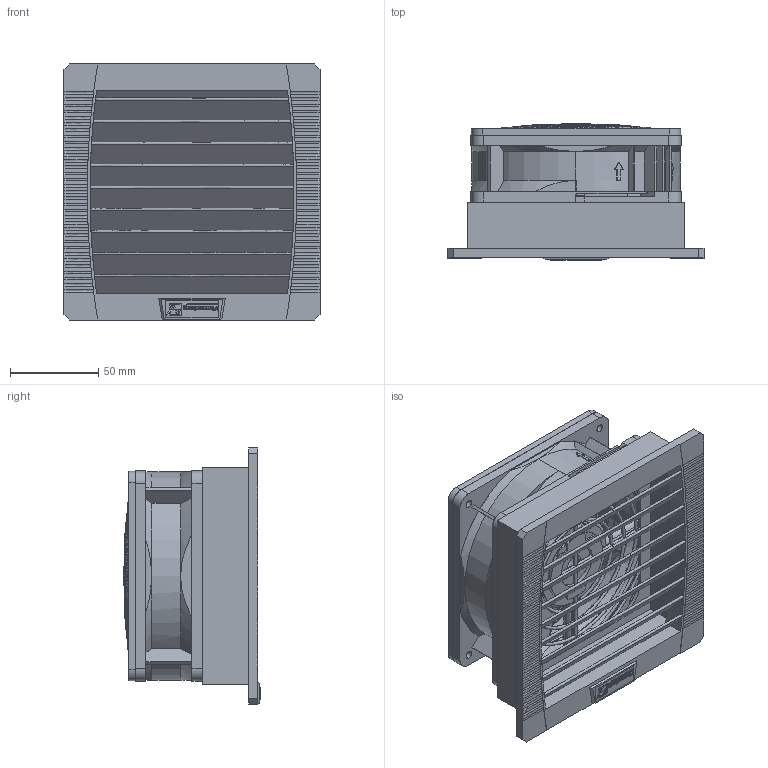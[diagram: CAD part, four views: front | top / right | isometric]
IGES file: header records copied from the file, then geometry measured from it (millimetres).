
Start section: SolidWorks IGES file using analytic representation for surfaces
Global section: file name: O:\Technik\Dokumentation\3D Volumenmodelle\PF 22000\PF 22000_AC.IGS; native system: SolidWorks 2007; preprocessor: SolidWorks 2007; author: AHoltz; date: 070529.173226; units: millimetre
Bounding box: 145 x 77.19 x 145 mm (x, y, z)
Surface area: 228475.3 mm2 (no closed solid volume)
Topology: 0 solids, 0 shells, 2568 faces, 25966 edges, 25948 vertices
Faces by surface type: bspline 2095, revolution 473
